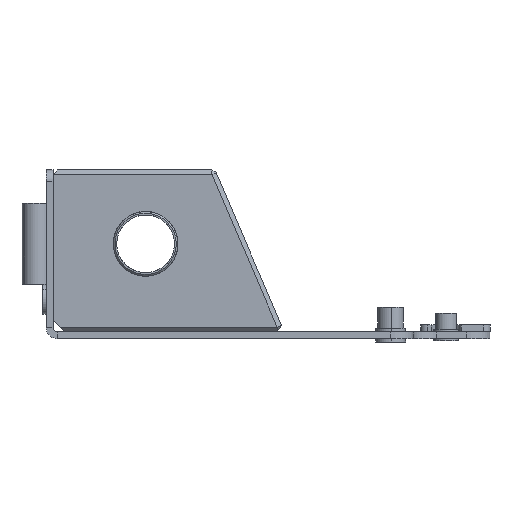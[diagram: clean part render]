
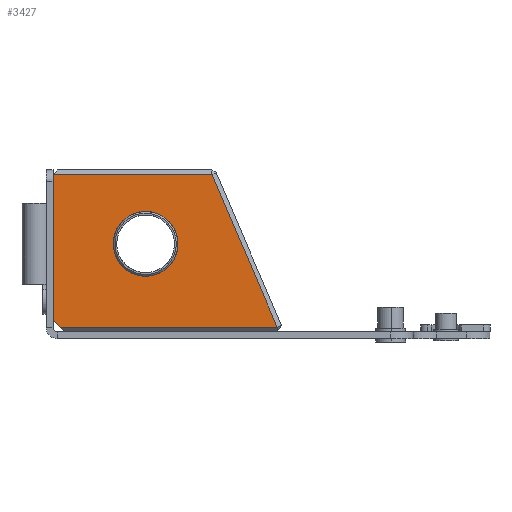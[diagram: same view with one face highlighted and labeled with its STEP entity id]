
A CAD part, left-side view. The second image highlights one B-rep face of the part: STEP entity #3427.
In plain terms, the highlighted planar face has unit normal (-1, 0, 0).
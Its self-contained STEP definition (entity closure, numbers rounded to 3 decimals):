
#530 = CARTESIAN_POINT ( 'NONE',  ( 0., 102., 41. ) ) ;
#551 = ORIENTED_EDGE ( 'NONE', *, *, #3256, .T. ) ;
#596 = DIRECTION ( 'NONE',  ( 0., -1., 0. ) ) ;
#693 = DIRECTION ( 'NONE',  ( -1., 0., 0. ) ) ;
#763 = AXIS2_PLACEMENT_3D ( 'NONE', #4971, #693, #6254 ) ;
#767 = CIRCLE ( 'NONE', #5431, 14. ) ;
#806 = VERTEX_POINT ( 'NONE', #1309 ) ;
#828 = DIRECTION ( 'NONE',  ( 1., 0., 0. ) ) ;
#854 = EDGE_CURVE ( 'NONE', #3342, #4927, #6141, .T. ) ;
#857 = DIRECTION ( 'NONE',  ( 0., 1., 0. ) ) ;
#899 = ORIENTED_EDGE ( 'NONE', *, *, #6544, .T. ) ;
#904 = CARTESIAN_POINT ( 'NONE',  ( 0., 156., 8. ) ) ;
#1004 = CARTESIAN_POINT ( 'NONE',  ( 0., 130., 41. ) ) ;
#1284 = ORIENTED_EDGE ( 'NONE', *, *, #6915, .T. ) ;
#1309 = CARTESIAN_POINT ( 'NONE',  ( 0., 156., 8. ) ) ;
#1493 = CARTESIAN_POINT ( 'NONE',  ( 0., 86., 73. ) ) ;
#1633 = VERTEX_POINT ( 'NONE', #3378 ) ;
#1850 = ORIENTED_EDGE ( 'NONE', *, *, #7495, .T. ) ;
#1882 = CARTESIAN_POINT ( 'NONE',  ( 0., 116., 41. ) ) ;
#2253 = EDGE_CURVE ( 'NONE', #4927, #3342, #767, .T. ) ;
#2322 = VECTOR ( 'NONE', #5711, 1000. ) ;
#2880 = VERTEX_POINT ( 'NONE', #6761 ) ;
#3186 = EDGE_LOOP ( 'NONE', ( #551, #899, #5027, #1850, #1284 ) ) ;
#3256 = EDGE_CURVE ( 'NONE', #806, #2880, #6200, .T. ) ;
#3342 = VERTEX_POINT ( 'NONE', #1004 ) ;
#3378 = CARTESIAN_POINT ( 'NONE',  ( 0., 156., 71. ) ) ;
#3427 = ADVANCED_FACE ( 'NONE', ( #6008, #5530 ), #5751, .F. ) ;
#3717 = VECTOR ( 'NONE', #6777, 1000. ) ;
#3778 = EDGE_CURVE ( 'NONE', #6233, #7378, #4289, .T. ) ;
#3785 = CARTESIAN_POINT ( 'NONE',  ( 0., 87.319, 71. ) ) ;
#4289 = LINE ( 'NONE', #4346, #3717 ) ;
#4346 = CARTESIAN_POINT ( 'NONE',  ( 0., 87.838, 72.212 ) ) ;
#4355 = CARTESIAN_POINT ( 'NONE',  ( 0., 86., 5. ) ) ;
#4368 = DIRECTION ( 'NONE',  ( 0., -1., 0. ) ) ;
#4473 = VECTOR ( 'NONE', #5887, 1000. ) ;
#4792 = LINE ( 'NONE', #5774, #2322 ) ;
#4848 = LINE ( 'NONE', #904, #7895 ) ;
#4927 = VERTEX_POINT ( 'NONE', #530 ) ;
#4971 = CARTESIAN_POINT ( 'NONE',  ( 0., 116., 41. ) ) ;
#4979 = ORIENTED_EDGE ( 'NONE', *, *, #2253, .F. ) ;
#5027 = ORIENTED_EDGE ( 'NONE', *, *, #3778, .T. ) ;
#5235 = CARTESIAN_POINT ( 'NONE',  ( 0., 156., 8. ) ) ;
#5329 = VECTOR ( 'NONE', #596, 1000. ) ;
#5431 = AXIS2_PLACEMENT_3D ( 'NONE', #1882, #5500, #4368 ) ;
#5500 = DIRECTION ( 'NONE',  ( -1., 0., 0. ) ) ;
#5530 = FACE_BOUND ( 'NONE', #7080, .T. ) ;
#5711 = DIRECTION ( 'NONE',  ( 0., 1., 0. ) ) ;
#5751 = PLANE ( 'NONE',  #7178 ) ;
#5774 = CARTESIAN_POINT ( 'NONE',  ( 0., 86., 71. ) ) ;
#5887 = DIRECTION ( 'NONE',  ( 0., -0.707, -0.707 ) ) ;
#6000 = DIRECTION ( 'NONE',  ( 0., 0., -1. ) ) ;
#6008 = FACE_OUTER_BOUND ( 'NONE', #3186, .T. ) ;
#6141 = CIRCLE ( 'NONE', #763, 14. ) ;
#6145 = CARTESIAN_POINT ( 'NONE',  ( 0., 59.033, 5. ) ) ;
#6200 = LINE ( 'NONE', #5235, #4473 ) ;
#6233 = VERTEX_POINT ( 'NONE', #6145 ) ;
#6254 = DIRECTION ( 'NONE',  ( 0., -1., 0. ) ) ;
#6544 = EDGE_CURVE ( 'NONE', #2880, #6233, #7518, .T. ) ;
#6704 = ORIENTED_EDGE ( 'NONE', *, *, #854, .F. ) ;
#6761 = CARTESIAN_POINT ( 'NONE',  ( 0., 153., 5. ) ) ;
#6777 = DIRECTION ( 'NONE',  ( 0., 0.394, 0.919 ) ) ;
#6915 = EDGE_CURVE ( 'NONE', #1633, #806, #4848, .T. ) ;
#7080 = EDGE_LOOP ( 'NONE', ( #6704, #4979 ) ) ;
#7178 = AXIS2_PLACEMENT_3D ( 'NONE', #1493, #828, #857 ) ;
#7378 = VERTEX_POINT ( 'NONE', #3785 ) ;
#7495 = EDGE_CURVE ( 'NONE', #7378, #1633, #4792, .T. ) ;
#7518 = LINE ( 'NONE', #4355, #5329 ) ;
#7895 = VECTOR ( 'NONE', #6000, 1000. ) ;
